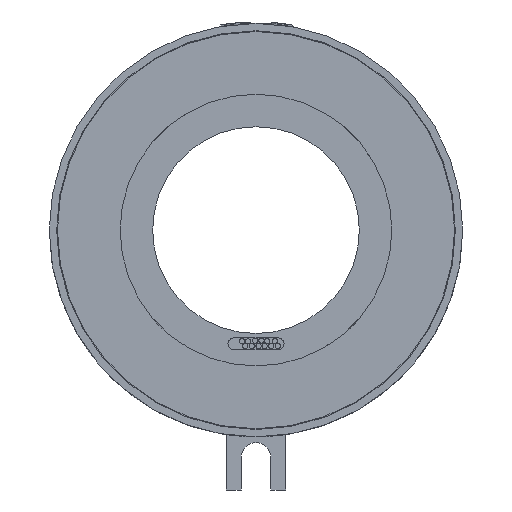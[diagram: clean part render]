
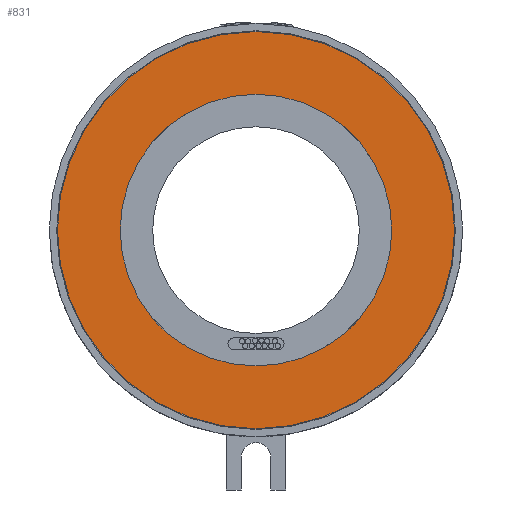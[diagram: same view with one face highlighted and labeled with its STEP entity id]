
A CAD part, front view. The second image highlights one B-rep face of the part: STEP entity #831.
In plain terms, the highlighted planar face has unit normal (0, -1, 0).
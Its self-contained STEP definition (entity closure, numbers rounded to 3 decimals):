
#593=PLANE('',#7941);
#831=ADVANCED_FACE('',(#2280,#2281),#593,.F.);
#1439=CIRCLE('',#7932,46.);
#1443=CIRCLE('',#7938,67.25);
#1444=CIRCLE('',#7939,67.25);
#1445=CIRCLE('',#7940,46.);
#2280=FACE_BOUND('',#2422,.T.);
#2281=FACE_BOUND('',#2423,.T.);
#2422=EDGE_LOOP('',(#3226,#3227));
#2423=EDGE_LOOP('',(#3228,#3229));
#3226=ORIENTED_EDGE('',*,*,#6246,.T.);
#3227=ORIENTED_EDGE('',*,*,#6247,.T.);
#3228=ORIENTED_EDGE('',*,*,#6248,.T.);
#3229=ORIENTED_EDGE('',*,*,#6238,.T.);
#5476=VERTEX_POINT('',#14313);
#5477=VERTEX_POINT('',#14315);
#5484=VERTEX_POINT('',#14453);
#5485=VERTEX_POINT('',#14454);
#6238=EDGE_CURVE('',#5476,#5477,#1439,.T.);
#6246=EDGE_CURVE('',#5484,#5485,#1443,.T.);
#6247=EDGE_CURVE('',#5485,#5484,#1444,.T.);
#6248=EDGE_CURVE('',#5477,#5476,#1445,.T.);
#7932=AXIS2_PLACEMENT_3D('',#14316,#8763,#8764);
#7938=AXIS2_PLACEMENT_3D('',#14452,#8775,#8776);
#7939=AXIS2_PLACEMENT_3D('',#14455,#8777,#8778);
#7940=AXIS2_PLACEMENT_3D('',#14456,#8779,#8780);
#7941=AXIS2_PLACEMENT_3D('',#14457,#8781,#8782);
#8763=DIRECTION('',(0.,1.,0.));
#8764=DIRECTION('',(1.,0.,0.));
#8775=DIRECTION('',(0.,-1.,0.));
#8776=DIRECTION('',(-1.,0.,0.));
#8777=DIRECTION('',(0.,-1.,0.));
#8778=DIRECTION('',(1.,0.,0.));
#8779=DIRECTION('',(0.,1.,0.));
#8780=DIRECTION('',(-1.,0.,0.));
#8781=DIRECTION('',(0.,1.,0.));
#8782=DIRECTION('',(-1.,0.,0.));
#14313=CARTESIAN_POINT('',(46.,8.5,0.));
#14315=CARTESIAN_POINT('',(-46.,8.5,0.));
#14316=CARTESIAN_POINT('',(0.,8.5,0.));
#14452=CARTESIAN_POINT('',(0.,8.5,0.));
#14453=CARTESIAN_POINT('',(-67.25,8.5,0.));
#14454=CARTESIAN_POINT('',(67.25,8.5,0.));
#14455=CARTESIAN_POINT('',(0.,8.5,0.));
#14456=CARTESIAN_POINT('',(0.,8.5,0.));
#14457=CARTESIAN_POINT('',(0.,8.5,0.));
